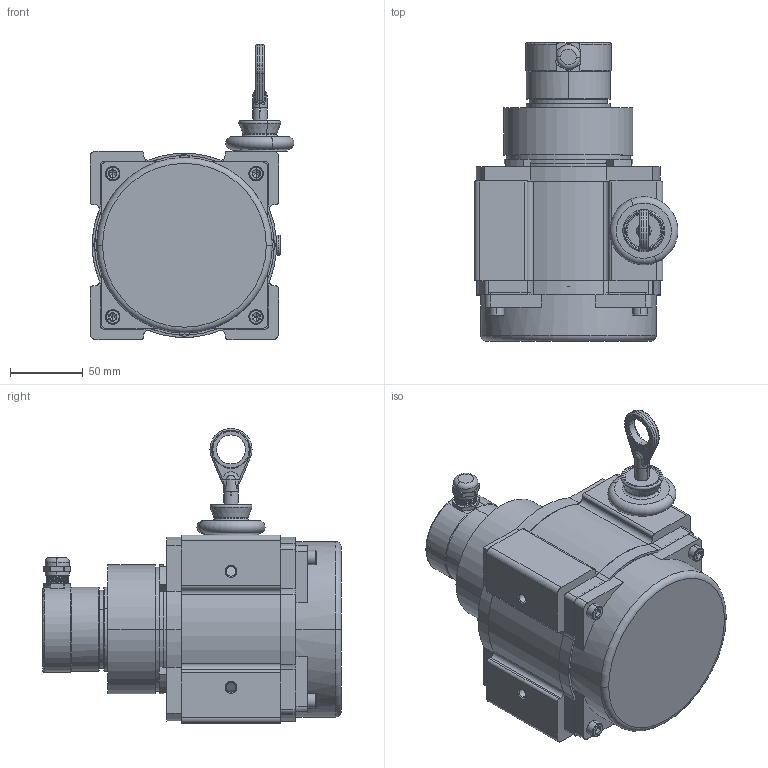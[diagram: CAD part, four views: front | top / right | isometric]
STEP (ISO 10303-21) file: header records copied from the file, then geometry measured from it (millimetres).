
FILE_DESCRIPTION (( 'STEP AP214' ), '1' );
FILE_NAME ('5米-装配夹紧发兰5810编码器.step', '2025-04-20T14:44:25', ( '' ), ( '' ), 'SwSTEP 2.0', 'SolidWorks 2024', '' );
FILE_SCHEMA (( 'AUTOMOTIVE_DESIGN' ));
Length unit declared in the file: millimetre
Products named in the file (1): 5米-装配夹紧发兰5810编码器
Bounding box: 140.48 x 205.9 x 203.5 mm (x, y, z)
Surface area: 308843.1 mm2 (no closed solid volume)
Topology: 0 solids, 454 shells, 1543 faces, 5202 edges, 4112 vertices
Faces by surface type: plane 658, cylinder 611, cone 152, bspline 72, torus 28, sphere 22
Entity records: 73829 total; most frequent: CARTESIAN_POINT 31102, DIRECTION 8089, ORIENTED_EDGE 7942, EDGE_CURVE 5171, VERTEX_POINT 4103, AXIS2_PLACEMENT_3D 2976, LINE 2137, VECTOR 2137
